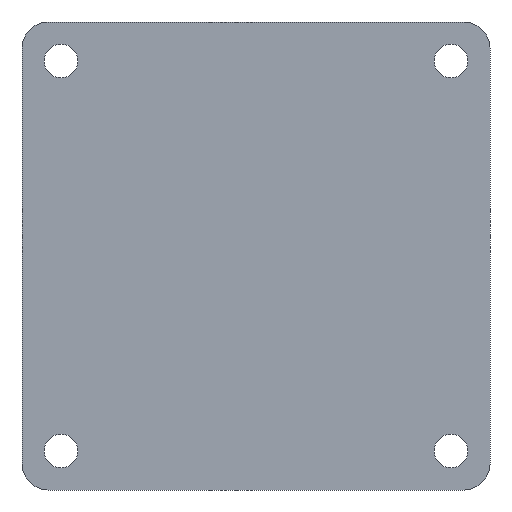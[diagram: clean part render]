
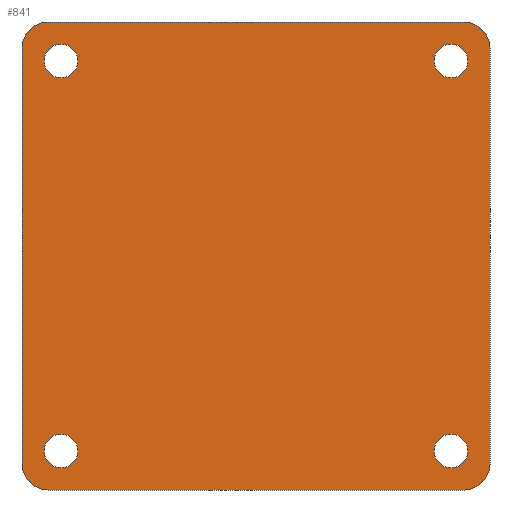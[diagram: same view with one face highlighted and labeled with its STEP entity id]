
A CAD part, front view. The second image highlights one B-rep face of the part: STEP entity #841.
In plain terms, the highlighted planar face has unit normal (0, -1, 0).
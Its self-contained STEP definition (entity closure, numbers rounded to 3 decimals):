
#14=CARTESIAN_POINT('',(75.,-4.,-75.));
#15=DIRECTION('',(0.,1.,0.));
#16=DIRECTION('',(-1.,0.,0.));
#17=AXIS2_PLACEMENT_3D('',#14,#15,#16);
#19=CARTESIAN_POINT('',(75.,-4.,-75.));
#20=DIRECTION('',(0.,1.,0.));
#21=DIRECTION('',(1.,0.,0.));
#22=AXIS2_PLACEMENT_3D('',#19,#20,#21);
#24=CARTESIAN_POINT('',(-75.,-4.,-75.));
#25=DIRECTION('',(0.,1.,0.));
#26=DIRECTION('',(-1.,0.,0.));
#27=AXIS2_PLACEMENT_3D('',#24,#25,#26);
#29=CARTESIAN_POINT('',(-75.,-4.,-75.));
#30=DIRECTION('',(0.,1.,0.));
#31=DIRECTION('',(1.,0.,0.));
#32=AXIS2_PLACEMENT_3D('',#29,#30,#31);
#34=CARTESIAN_POINT('',(-75.,-4.,75.));
#35=DIRECTION('',(0.,1.,0.));
#36=DIRECTION('',(-1.,0.,0.));
#37=AXIS2_PLACEMENT_3D('',#34,#35,#36);
#39=CARTESIAN_POINT('',(-75.,-4.,75.));
#40=DIRECTION('',(0.,1.,0.));
#41=DIRECTION('',(1.,0.,0.));
#42=AXIS2_PLACEMENT_3D('',#39,#40,#41);
#44=CARTESIAN_POINT('',(75.,-4.,75.));
#45=DIRECTION('',(0.,1.,0.));
#46=DIRECTION('',(-1.,0.,0.));
#47=AXIS2_PLACEMENT_3D('',#44,#45,#46);
#49=CARTESIAN_POINT('',(75.,-4.,75.));
#50=DIRECTION('',(0.,1.,0.));
#51=DIRECTION('',(1.,0.,0.));
#52=AXIS2_PLACEMENT_3D('',#49,#50,#51);
#54=DIRECTION('',(-1.,0.,0.));
#55=VECTOR('',#54,160.);
#56=CARTESIAN_POINT('',(80.,-4.,90.));
#57=LINE('',#56,#55);
#58=CARTESIAN_POINT('',(80.,-4.,80.));
#59=DIRECTION('',(0.,-1.,0.));
#60=DIRECTION('',(1.,0.,0.));
#61=AXIS2_PLACEMENT_3D('',#58,#59,#60);
#63=DIRECTION('',(0.,0.,1.));
#64=VECTOR('',#63,160.);
#65=CARTESIAN_POINT('',(90.,-4.,-80.));
#66=LINE('',#65,#64);
#67=CARTESIAN_POINT('',(80.,-4.,-80.));
#68=DIRECTION('',(0.,-1.,0.));
#69=DIRECTION('',(0.,0.,-1.));
#70=AXIS2_PLACEMENT_3D('',#67,#68,#69);
#72=DIRECTION('',(1.,0.,0.));
#73=VECTOR('',#72,160.);
#74=CARTESIAN_POINT('',(-80.,-4.,-90.));
#75=LINE('',#74,#73);
#76=CARTESIAN_POINT('',(-80.,-4.,-80.));
#77=DIRECTION('',(0.,-1.,0.));
#78=DIRECTION('',(-1.,0.,0.));
#79=AXIS2_PLACEMENT_3D('',#76,#77,#78);
#81=DIRECTION('',(0.,0.,-1.));
#82=VECTOR('',#81,160.);
#83=CARTESIAN_POINT('',(-90.,-4.,80.));
#84=LINE('',#83,#82);
#85=CARTESIAN_POINT('',(-80.,-4.,80.));
#86=DIRECTION('',(0.,-1.,0.));
#87=DIRECTION('',(0.,0.,1.));
#88=AXIS2_PLACEMENT_3D('',#85,#86,#87);
#614=CARTESIAN_POINT('',(68.5,-4.,-75.));
#615=CARTESIAN_POINT('',(81.5,-4.,-75.));
#616=VERTEX_POINT('',#614);
#617=VERTEX_POINT('',#615);
#618=CARTESIAN_POINT('',(-81.5,-4.,-75.));
#619=CARTESIAN_POINT('',(-68.5,-4.,-75.));
#620=VERTEX_POINT('',#618);
#621=VERTEX_POINT('',#619);
#622=CARTESIAN_POINT('',(-81.5,-4.,75.));
#623=CARTESIAN_POINT('',(-68.5,-4.,75.));
#624=VERTEX_POINT('',#622);
#625=VERTEX_POINT('',#623);
#626=CARTESIAN_POINT('',(68.5,-4.,75.));
#627=CARTESIAN_POINT('',(81.5,-4.,75.));
#628=VERTEX_POINT('',#626);
#629=VERTEX_POINT('',#627);
#630=CARTESIAN_POINT('',(80.,-4.,90.));
#631=CARTESIAN_POINT('',(-80.,-4.,90.));
#632=VERTEX_POINT('',#630);
#633=VERTEX_POINT('',#631);
#634=CARTESIAN_POINT('',(-90.,-4.,80.));
#635=VERTEX_POINT('',#634);
#636=CARTESIAN_POINT('',(-90.,-4.,-80.));
#637=VERTEX_POINT('',#636);
#638=CARTESIAN_POINT('',(-80.,-4.,-90.));
#639=VERTEX_POINT('',#638);
#640=CARTESIAN_POINT('',(80.,-4.,-90.));
#641=VERTEX_POINT('',#640);
#642=CARTESIAN_POINT('',(90.,-4.,-80.));
#643=VERTEX_POINT('',#642);
#644=CARTESIAN_POINT('',(90.,-4.,80.));
#645=VERTEX_POINT('',#644);
#794=CARTESIAN_POINT('',(0.,-4.,0.));
#795=DIRECTION('',(0.,-1.,0.));
#796=DIRECTION('',(-1.,0.,0.));
#797=AXIS2_PLACEMENT_3D('',#794,#795,#796);
#798=PLANE('',#797);
#800=ORIENTED_EDGE('',*,*,#799,.F.);
#802=ORIENTED_EDGE('',*,*,#801,.F.);
#804=ORIENTED_EDGE('',*,*,#803,.F.);
#806=ORIENTED_EDGE('',*,*,#805,.F.);
#808=ORIENTED_EDGE('',*,*,#807,.F.);
#810=ORIENTED_EDGE('',*,*,#809,.F.);
#812=ORIENTED_EDGE('',*,*,#811,.F.);
#814=ORIENTED_EDGE('',*,*,#813,.F.);
#815=EDGE_LOOP('',(#800,#802,#804,#806,#808,#810,#812,#814));
#816=FACE_OUTER_BOUND('',#815,.F.);
#818=ORIENTED_EDGE('',*,*,#817,.F.);
#820=ORIENTED_EDGE('',*,*,#819,.F.);
#821=EDGE_LOOP('',(#818,#820));
#822=FACE_BOUND('',#821,.F.);
#824=ORIENTED_EDGE('',*,*,#823,.F.);
#826=ORIENTED_EDGE('',*,*,#825,.F.);
#827=EDGE_LOOP('',(#824,#826));
#828=FACE_BOUND('',#827,.F.);
#830=ORIENTED_EDGE('',*,*,#829,.F.);
#832=ORIENTED_EDGE('',*,*,#831,.F.);
#833=EDGE_LOOP('',(#830,#832));
#834=FACE_BOUND('',#833,.F.);
#836=ORIENTED_EDGE('',*,*,#835,.F.);
#838=ORIENTED_EDGE('',*,*,#837,.F.);
#839=EDGE_LOOP('',(#836,#838));
#840=FACE_BOUND('',#839,.F.);
#18=CIRCLE('',#17,6.5);
#23=CIRCLE('',#22,6.5);
#28=CIRCLE('',#27,6.5);
#33=CIRCLE('',#32,6.5);
#38=CIRCLE('',#37,6.5);
#43=CIRCLE('',#42,6.5);
#48=CIRCLE('',#47,6.5);
#53=CIRCLE('',#52,6.5);
#62=CIRCLE('',#61,10.);
#71=CIRCLE('',#70,10.);
#80=CIRCLE('',#79,10.);
#89=CIRCLE('',#88,10.);
#799=EDGE_CURVE('',#632,#633,#57,.T.);
#801=EDGE_CURVE('',#645,#632,#62,.T.);
#803=EDGE_CURVE('',#643,#645,#66,.T.);
#805=EDGE_CURVE('',#641,#643,#71,.T.);
#807=EDGE_CURVE('',#639,#641,#75,.T.);
#809=EDGE_CURVE('',#637,#639,#80,.T.);
#811=EDGE_CURVE('',#635,#637,#84,.T.);
#813=EDGE_CURVE('',#633,#635,#89,.T.);
#817=EDGE_CURVE('',#620,#621,#28,.T.);
#819=EDGE_CURVE('',#621,#620,#33,.T.);
#823=EDGE_CURVE('',#624,#625,#38,.T.);
#825=EDGE_CURVE('',#625,#624,#43,.T.);
#829=EDGE_CURVE('',#628,#629,#48,.T.);
#831=EDGE_CURVE('',#629,#628,#53,.T.);
#835=EDGE_CURVE('',#616,#617,#18,.T.);
#837=EDGE_CURVE('',#617,#616,#23,.T.);
#841=ADVANCED_FACE('',(#816,#822,#828,#834,#840),#798,.T.);
